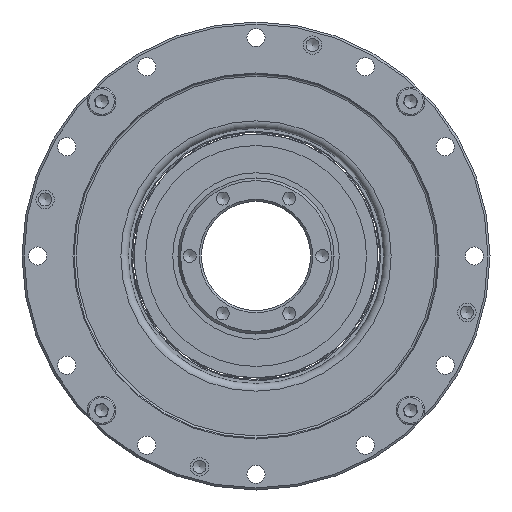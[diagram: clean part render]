
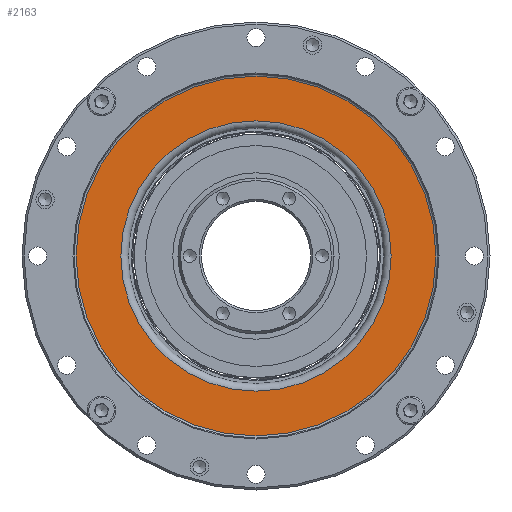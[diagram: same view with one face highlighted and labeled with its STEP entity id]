
A CAD part, left-side view. The second image highlights one B-rep face of the part: STEP entity #2163.
In plain terms, the highlighted planar face has unit normal (-1, 0, 0).
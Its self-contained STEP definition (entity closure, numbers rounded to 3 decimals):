
#635 = CARTESIAN_POINT ( 'NONE',  ( 12.199, 0., 25.993 ) ) ;
#693 = VERTEX_POINT ( 'NONE', #8357 ) ;
#814 = ORIENTED_EDGE ( 'NONE', *, *, #1846, .F. ) ;
#1154 = DIRECTION ( 'NONE',  ( 0., 0., 1. ) ) ;
#1209 = PLANE ( 'NONE',  #5573 ) ;
#1846 = EDGE_CURVE ( 'NONE', #13617, #13617, #4909, .T. ) ;
#2163 = ADVANCED_FACE ( 'NONE', ( #2269, #2339 ), #1209, .T. ) ;
#2269 = FACE_OUTER_BOUND ( 'NONE', #11275, .T. ) ;
#2339 = FACE_BOUND ( 'NONE', #6950, .T. ) ;
#2397 = EDGE_CURVE ( 'NONE', #693, #693, #6896, .T. ) ;
#2888 = AXIS2_PLACEMENT_3D ( 'NONE', #4203, #8478, #1154 ) ;
#4203 = CARTESIAN_POINT ( 'NONE',  ( 12.199, 0., 0. ) ) ;
#4909 = CIRCLE ( 'NONE', #13185, 25.993 ) ;
#5223 = CARTESIAN_POINT ( 'NONE',  ( 12.199, 34.6, 0. ) ) ;
#5496 = DIRECTION ( 'NONE',  ( -1., 0., 0. ) ) ;
#5573 = AXIS2_PLACEMENT_3D ( 'NONE', #5223, #5496, #13006 ) ;
#6896 = CIRCLE ( 'NONE', #2888, 34.6 ) ;
#6950 = EDGE_LOOP ( 'NONE', ( #814 ) ) ;
#7969 = ORIENTED_EDGE ( 'NONE', *, *, #2397, .T. ) ;
#8357 = CARTESIAN_POINT ( 'NONE',  ( 12.199, 0., 34.6 ) ) ;
#8478 = DIRECTION ( 'NONE',  ( -1., 0., 0. ) ) ;
#9101 = DIRECTION ( 'NONE',  ( -1., 0., 0. ) ) ;
#9934 = CARTESIAN_POINT ( 'NONE',  ( 12.199, 0., 0. ) ) ;
#10075 = DIRECTION ( 'NONE',  ( 0., 0., 1. ) ) ;
#11275 = EDGE_LOOP ( 'NONE', ( #7969 ) ) ;
#13006 = DIRECTION ( 'NONE',  ( 0., 0., 1. ) ) ;
#13185 = AXIS2_PLACEMENT_3D ( 'NONE', #9934, #9101, #10075 ) ;
#13617 = VERTEX_POINT ( 'NONE', #635 ) ;
